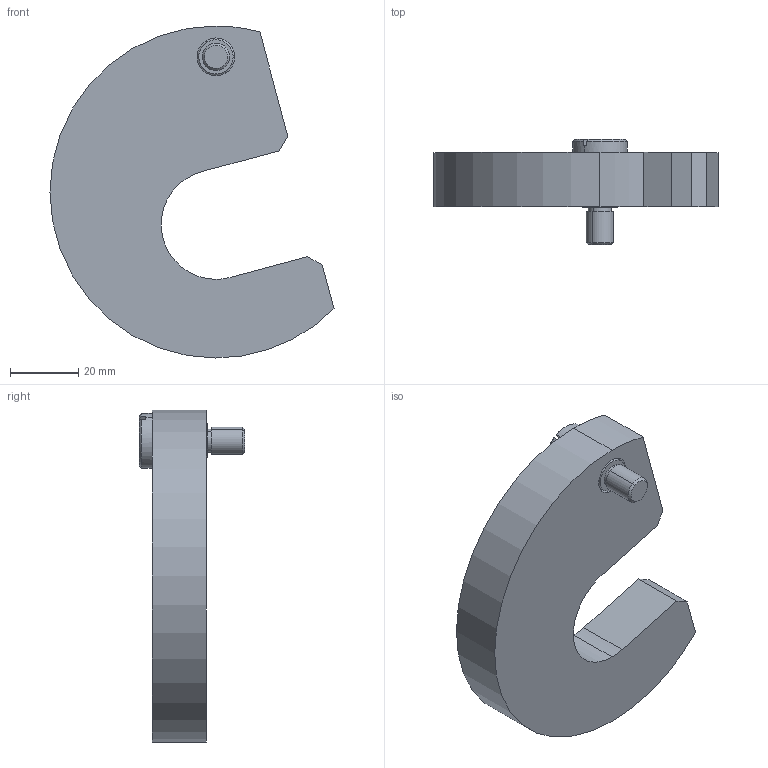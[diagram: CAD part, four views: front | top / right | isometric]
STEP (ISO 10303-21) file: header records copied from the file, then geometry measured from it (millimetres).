
FILE_DESCRIPTION (( 'STEP AP203' ), '1' );
FILE_NAME ('3662.W030.step', '2009-12-03T10:15:10', ( 'Wixroyd' ), ( 'Wixroyd' ), 'SwSTEP 2.0', 'SolidWorks 2009', '' );
FILE_SCHEMA (( 'CONFIG_CONTROL_DESIGN' ));
Length unit declared in the file: millimetre
Products named in the file (3): Part1_3662W030; Part2_3670W009; 3662.W030
Assembly tree (2 placements, depth 2):
  3662.W030
    Part2_3670W009
    Part1_3662W030
Bounding box: 83 x 30.8 x 97 mm (x, y, z)
Volume: 75093.9 mm3; surface area: 16767.1 mm2
Topology: 2 solids, 2 shells, 38 faces, 89 edges, 58 vertices
Faces by surface type: plane 17, cylinder 15, cone 4, torus 2
Entity records: 1416 total; most frequent: DIRECTION 213, CARTESIAN_POINT 202, ORIENTED_EDGE 178, EDGE_CURVE 89, AXIS2_PLACEMENT_3D 85, VERTEX_POINT 58, EDGE_LOOP 43, VECTOR 43
